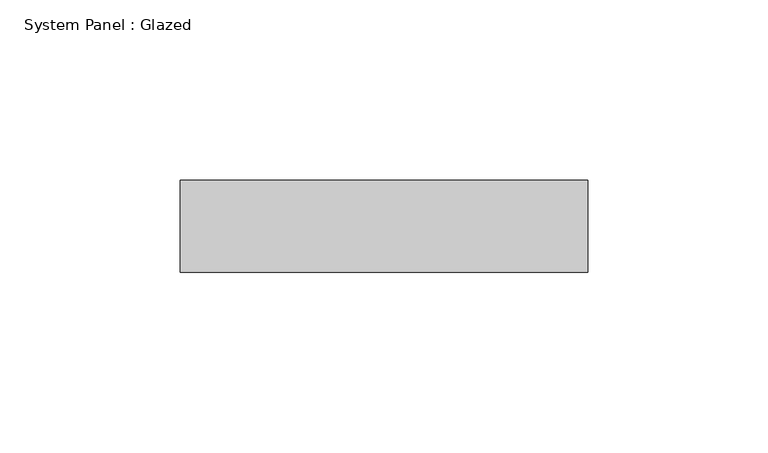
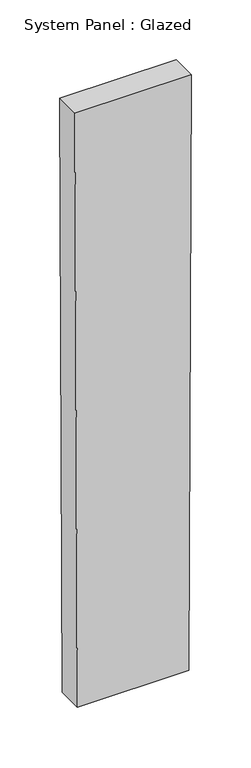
"""IFC4 building model written with IfcOpenShell, lengths in millimetres: plate geometry, System Panel : Glazed."""

from ifc_helpers import new_model, si_unit, frame, origin, place, context, project, spatial, polyline, outline, extrude, source, transform, mapped, element, save


def system_panel_glazed_7b69f2d3(model_context):
    return source(origin(), model_context, "Body", "SweptSolid", [
        extrude(outline(polyline([(0.0, -53.9524893), (0.0, 53.9524893), (609.5949972, 56.4221895), (609.5949972, -56.4221895), (0.0, -53.9524893)])), frame((0.0, -44.45, 0.0), z_axis=(0.0, 1.0, 0.0), x_axis=(0.0, 0.0, 1.0)), (0.0, 0.0, 1.0), 25.4),
    ])


if __name__ == "__main__":
    model = new_model("IFC4")
    model_context = context("Model", 3, world=origin())
    ifc_project = project(units=[si_unit("LENGTHUNIT", "METRE", prefix="MILLI")], contexts=[model_context])
    site = spatial("IfcSite", under=ifc_project)
    building = spatial("IfcBuilding", under=site)
    placement = place(None, origin())
    system_panel_glazed_shape = system_panel_glazed_7b69f2d3(model_context)
    element("IfcPlate", 1, ObjectType="System Panel : Glazed", at=placement, inside=building, context=model_context, shape_type="MappedRepresentation", body=[
        mapped(system_panel_glazed_shape, transform((0.0, 0.0, 0.0), x_axis=(1.0, 0.0, 0.0), y_axis=(0.0, 1.0, 0.0), z_axis=(0.0, 0.0, 1.0))),
    ])
    save(model, "model.ifc")
